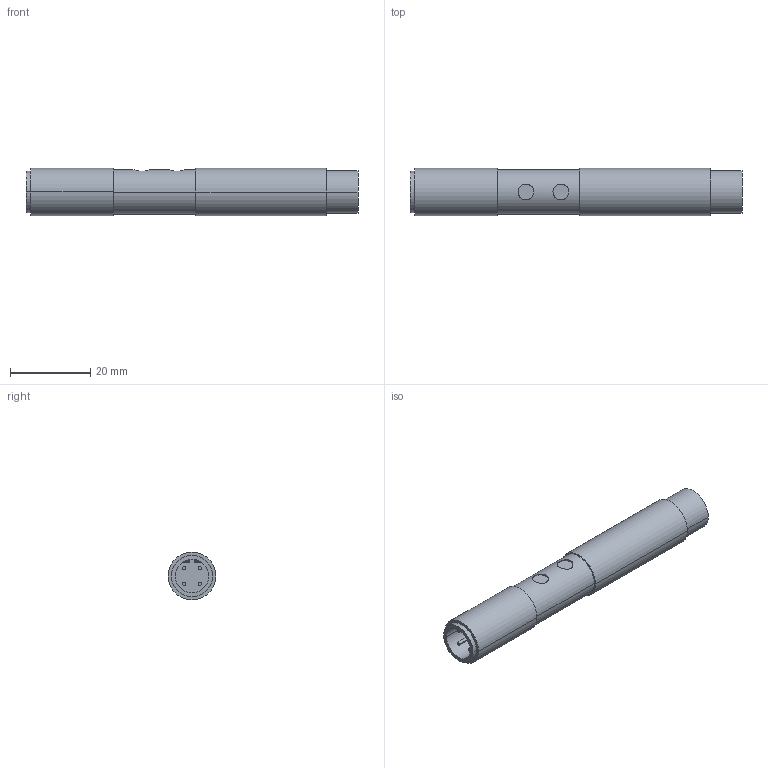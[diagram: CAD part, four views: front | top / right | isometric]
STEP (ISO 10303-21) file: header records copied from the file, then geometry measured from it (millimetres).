
FILE_DESCRIPTION (( 'STEP AP214' ), '1' );
FILE_NAME ('871TM-B4N12-B4.STEP', '2009-08-12T07:00:08', ( ' ' ), ( ' ' ), 'SwSTEP 2.0', 'SolidWorks 2007', '' );
FILE_SCHEMA (( 'AUTOMOTIVE_DESIGN' ));
Length unit declared in the file: millimetre
Products named in the file (1): 871TM-B4N12-B4
Bounding box: 82.95 x 11.91 x 11.91 mm (x, y, z)
Volume: 8200.4 mm3; surface area: 3635.3 mm2
Topology: 1 solids, 1 shells, 45 faces, 92 edges, 60 vertices
Faces by surface type: cylinder 26, plane 19
Entity records: 1333 total; most frequent: CARTESIAN_POINT 320, DIRECTION 226, ORIENTED_EDGE 184, AXIS2_PLACEMENT_3D 94, EDGE_CURVE 92, VERTEX_POINT 60, EDGE_LOOP 56, CIRCLE 48
